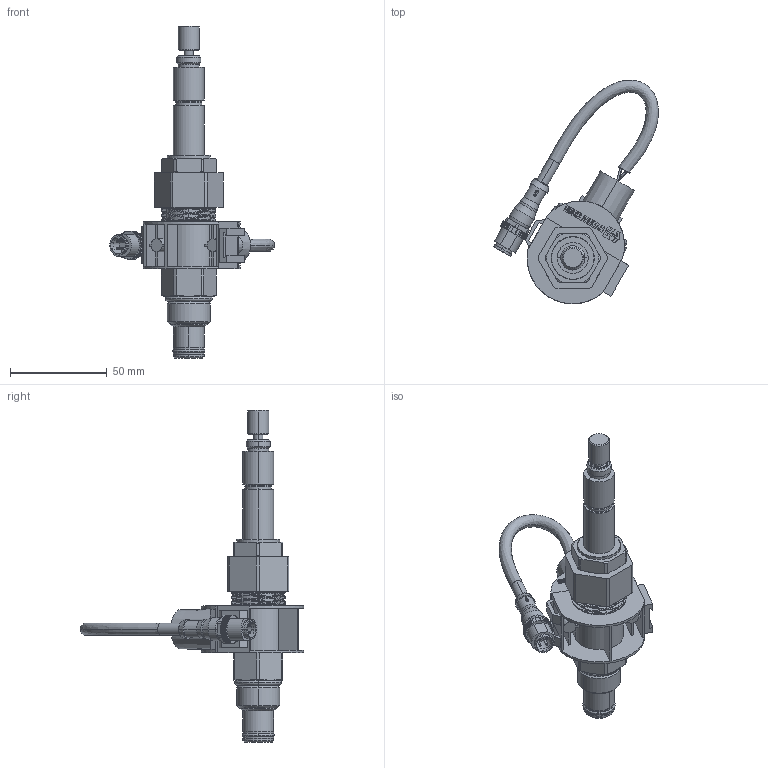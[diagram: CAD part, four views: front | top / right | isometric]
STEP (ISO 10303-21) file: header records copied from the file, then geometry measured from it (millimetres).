
FILE_DESCRIPTION((''),'2;1');
FILE_NAME('ASM0002_ASM','2021-06-24T15:23:12',('CY1'),(''),'CREO PARAMETRIC BY PTC INC, 2018020','CREO PARAMETRIC BY PTC INC, 2018020','');
FILE_SCHEMA(('CONFIG_CONTROL_DESIGN'));
Products named in the file (3): PRT0002; PRT0003; ASM0002_ASM
Assembly tree (2 placements, depth 2):
  ASM0002_ASM
    PRT0002
    PRT0003
Bounding box: 85.02 x 115.43 x 171.32 mm (x, y, z)
Volume: 92120.4 mm3; surface area: 40172.1 mm2
Topology: 2 solids, 3 shells, 1073 faces, 3002 edges, 1954 vertices
Faces by surface type: plane 507, cylinder 312, cone 84, bspline 78, extrusion 64, torus 28
Entity records: 44089 total; most frequent: CARTESIAN_POINT 17517, ORIENTED_EDGE 5996, DIRECTION 4776, EDGE_CURVE 2998, VERTEX_POINT 1954, VECTOR 1720, LINE 1656, AXIS2_PLACEMENT_3D 1528
